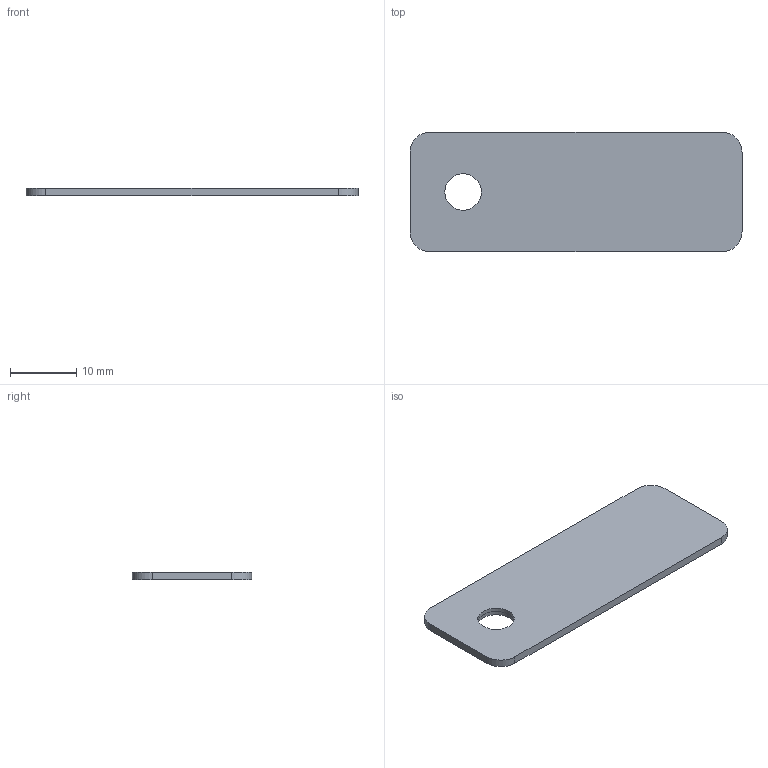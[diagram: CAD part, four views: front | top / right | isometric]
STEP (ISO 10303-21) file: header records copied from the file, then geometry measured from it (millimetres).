
FILE_DESCRIPTION(('Open CASCADE Model'),'2;1');
FILE_NAME('Open CASCADE Shape Model','2026-09-16T16:54:27',('Author'),( 'Open CASCADE'),'Open CASCADE STEP processor 7.8','Open CASCADE 7.8' ,'Unknown');
FILE_SCHEMA(('AUTOMOTIVE_DESIGN { 1 0 10303 214 1 1 1 1 }'));
Length unit declared in the file: millimetre
Products named in the file (1): Open CASCADE STEP translator 7.8 15
Bounding box: 50 x 18 x 1.2 mm (x, y, z)
Volume: 1042.2 mm3; surface area: 1914.8 mm2
Topology: 1 solids, 1 shells, 12 faces, 29 edges, 19 vertices
Faces by surface type: plane 6, cylinder 6
Full cylindrical faces by diameter (mm): 5.5 x2
Entity records: 761 total; most frequent: CARTESIAN_POINT 150, DIRECTION 118, LINE 65, VECTOR 65, ORIENTED_EDGE 58, PCURVE 58, DEFINITIONAL_REPRESENTATION 58, EDGE_CURVE 29
